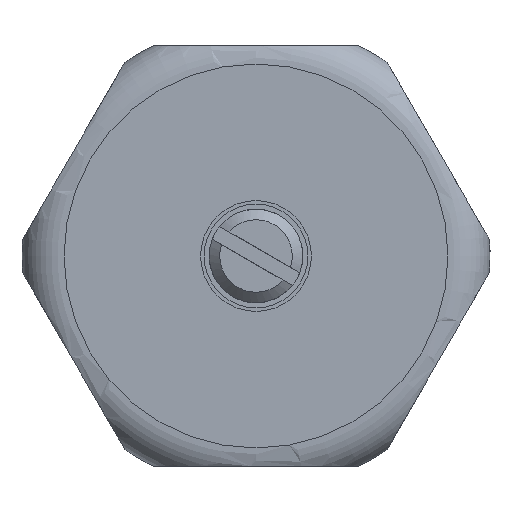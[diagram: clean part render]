
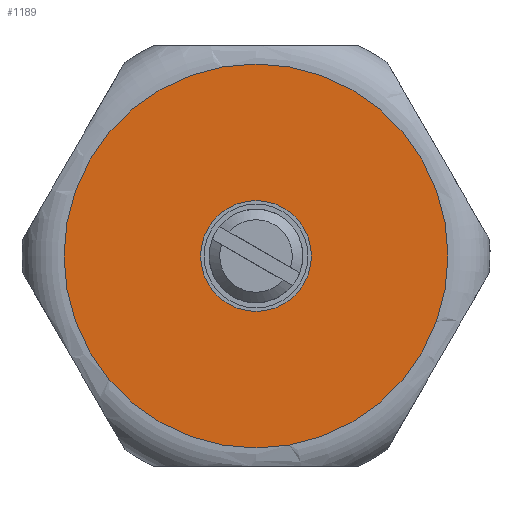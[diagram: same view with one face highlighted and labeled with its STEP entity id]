
A CAD part, left-side view. The second image highlights one B-rep face of the part: STEP entity #1189.
In plain terms, the highlighted planar face has unit normal (-1, 0, 0).
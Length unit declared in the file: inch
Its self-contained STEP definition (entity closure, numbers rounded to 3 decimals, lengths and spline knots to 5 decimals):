
#31=FACE_BOUND('',#277,.T.);
#102=CIRCLE('',#1291,0.14764);
#103=CIRCLE('',#1292,0.14764);
#129=CIRCLE('',#1336,0.51181);
#130=CIRCLE('',#1337,0.51181);
#208=FACE_OUTER_BOUND('',#276,.T.);
#276=EDGE_LOOP('',(#941,#942));
#277=EDGE_LOOP('',(#943,#944));
#465=VERTEX_POINT('',#1916);
#466=VERTEX_POINT('',#1917);
#505=VERTEX_POINT('',#2177);
#506=VERTEX_POINT('',#2178);
#603=EDGE_CURVE('',#465,#466,#102,.T.);
#604=EDGE_CURVE('',#466,#465,#103,.T.);
#660=EDGE_CURVE('',#505,#506,#129,.T.);
#661=EDGE_CURVE('',#506,#505,#130,.T.);
#941=ORIENTED_EDGE('',*,*,#660,.F.);
#942=ORIENTED_EDGE('',*,*,#661,.F.);
#943=ORIENTED_EDGE('',*,*,#603,.T.);
#944=ORIENTED_EDGE('',*,*,#604,.T.);
#1078=PLANE('',#1335);
#1189=ADVANCED_FACE('',(#208,#31),#1078,.T.);
#1291=AXIS2_PLACEMENT_3D('',#1918,#1534,#1535);
#1292=AXIS2_PLACEMENT_3D('',#1919,#1536,#1537);
#1335=AXIS2_PLACEMENT_3D('',#2176,#1638,#1639);
#1336=AXIS2_PLACEMENT_3D('',#2179,#1640,#1641);
#1337=AXIS2_PLACEMENT_3D('',#2180,#1642,#1643);
#1534=DIRECTION('center_axis',(1.,0.,0.));
#1535=DIRECTION('ref_axis',(0.,-0.866,0.5));
#1536=DIRECTION('center_axis',(1.,0.,0.));
#1537=DIRECTION('ref_axis',(0.,-0.866,0.5));
#1638=DIRECTION('center_axis',(-1.,0.,0.));
#1639=DIRECTION('ref_axis',(0.,-0.866,0.5));
#1640=DIRECTION('center_axis',(1.,0.,0.));
#1641=DIRECTION('ref_axis',(0.,0.866,-0.5));
#1642=DIRECTION('center_axis',(1.,0.,0.));
#1643=DIRECTION('ref_axis',(0.,0.866,-0.5));
#1916=CARTESIAN_POINT('',(-2.66747,-0.02656,-0.27052));
#1917=CARTESIAN_POINT('',(-2.66747,0.22916,-0.41816));
#1918=CARTESIAN_POINT('Origin',(-2.66747,0.1013,-0.34434));
#1919=CARTESIAN_POINT('Origin',(-2.66747,0.1013,-0.34434));
#2176=CARTESIAN_POINT('Origin',(-2.66747,0.54454,-0.60025));
#2177=CARTESIAN_POINT('',(-2.66747,0.54454,-0.60025));
#2178=CARTESIAN_POINT('',(-2.66747,-0.34194,-0.08844));
#2179=CARTESIAN_POINT('Origin',(-2.66747,0.1013,-0.34434));
#2180=CARTESIAN_POINT('Origin',(-2.66747,0.1013,-0.34434));
